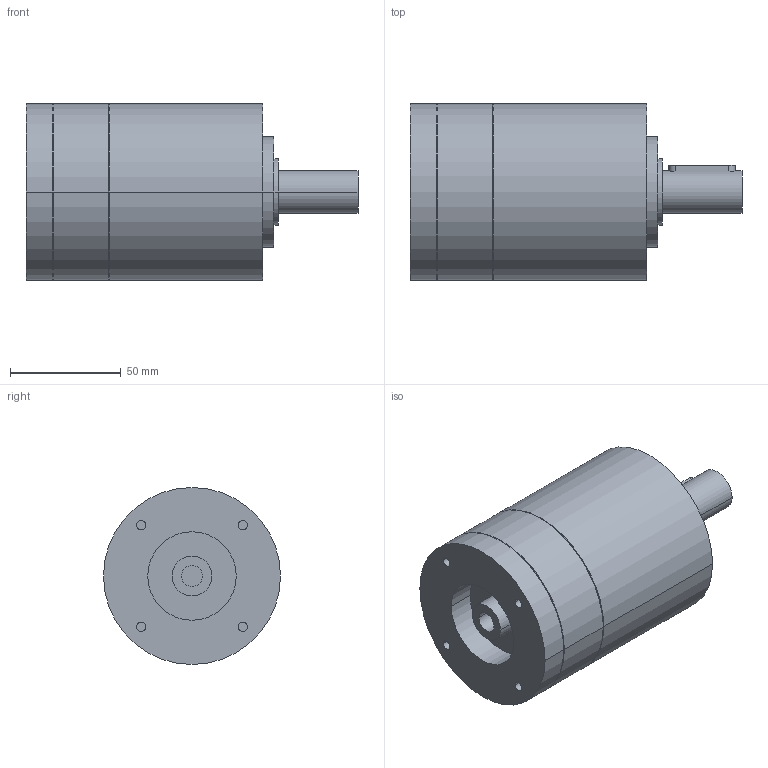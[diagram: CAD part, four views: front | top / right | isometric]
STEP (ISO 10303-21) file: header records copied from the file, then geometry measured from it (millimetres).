
FILE_DESCRIPTION(('CoCreate Modeling STEP Export'),'2;1');
FILE_NAME('GPR100_ig-3-4-5-6_19_B14_9.52_P26.stp','2014-08-26T10:09:54',(''),(''),'CoCreate Modeling STEP processor for AP214 (Solid Model)','CoCreate Modeling 16.00C 25-Feb-2009 (C) Parametric Technology GmbH','');
FILE_SCHEMA(('AUTOMOTIVE_DESIGN { 1 0 10303 214 1 1 1 1 }'));
Length unit declared in the file: millimetre
Products named in the file (2): GPR100_ig-3-4-5-6_19_B14_9.52_P26
Assembly tree (1 placements, depth 2):
  GPR100_ig-3-4-5-6_19_B14_9.52_P26
    GPR100_ig-3-4-5-6_19_B14_9.52_P26
Bounding box: 150 x 80 x 80 mm (x, y, z)
Volume: 542104.7 mm3; surface area: 45569.7 mm2
Topology: 1 solids, 1 shells, 65 faces, 155 edges, 107 vertices
Faces by surface type: cylinder 38, plane 21, cone 6
Entity records: 1621 total; most frequent: ORIENTED_EDGE 306, CARTESIAN_POINT 303, DIRECTION 214, EDGE_CURVE 153, VERTEX_POINT 107, AXIS2_PLACEMENT_3D 82, EDGE_LOOP 82, FACE_OUTER_BOUND 65
